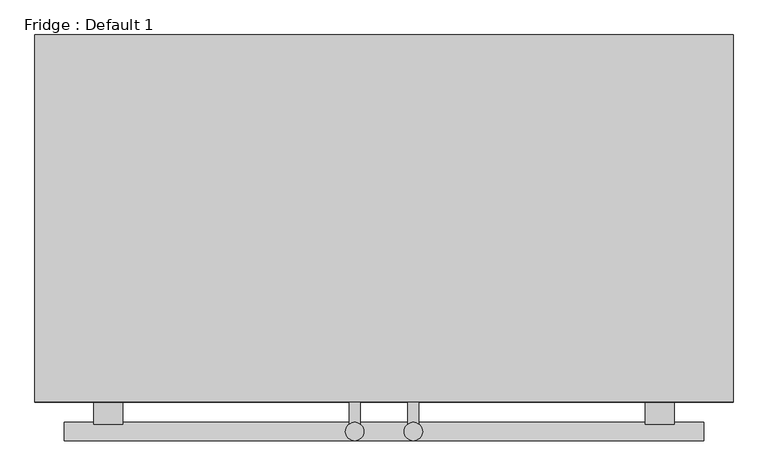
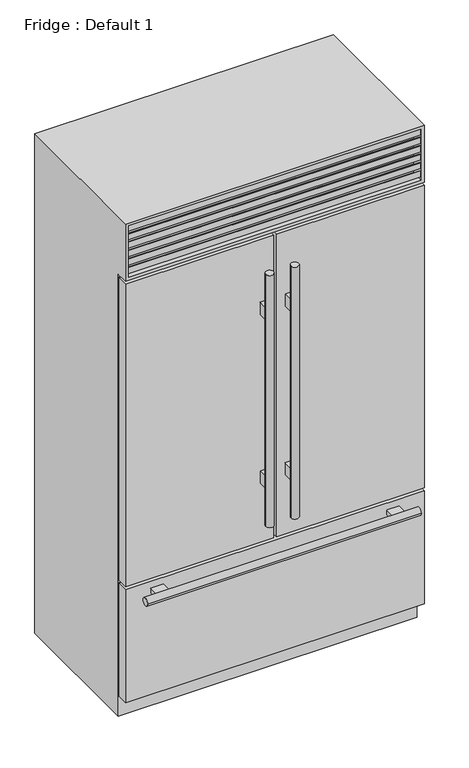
"""IFC4 building model written with IfcOpenShell, lengths in millimetres: proxy geometry, Fridge : Default 1."""

import ifcopenshell
import ifcopenshell.guid

model = None  # the IFC model being written
_history = None  # IfcOwnerHistory: only IFC2X3 demands one
_inside = {}  # id of a spatial element -> (the spatial element, [elements in it])
_under = {}  # id of a project, library or spatial element -> (it, [spatial elements below it])
_declared = {}  # id of a project -> (the project, [libraries it declares])
_typed = {}  # id of a type object -> (the type object, [elements of that type])
_made_of = {}  # id of a material, layer set ... -> (it, [elements and type objects made of it])


def new_model(schema):
    """Start an empty IFC model of exactly this schema.

    Asked for "IFC4X3", IfcOpenShell would pick the latest addendum, in which some entities
    have other attributes; the version numbers below select the first issue.
    IFC2X3 requires an IfcOwnerHistory on every rooted entity: one is made here for all.
    """
    global model, _history
    if schema == "IFC4X3":
        model = ifcopenshell.file(schema_version=(4, 3, 0, 0))
    else:
        model = ifcopenshell.file(schema=schema)
    _inside.clear()
    _under.clear()
    _declared.clear()
    _typed.clear()
    _made_of.clear()
    _history = None
    if model.schema == "IFC2X3":
        org = make("IfcOrganization", Name="unknown")
        user = make(
            "IfcPersonAndOrganization",
            ThePerson=make("IfcPerson", FamilyName="unknown"),
            TheOrganization=org,
        )
        app = make(
            "IfcApplication",
            ApplicationDeveloper=org,
            Version="unknown",
            ApplicationFullName="unknown",
            ApplicationIdentifier="unknown",
        )
        _history = make(
            "IfcOwnerHistory",
            OwningUser=user,
            OwningApplication=app,
            ChangeAction="ADDED",
            CreationDate=0,
        )
    return model


def make(cls, **values):
    """One entity of the class cls with the attributes given. An attribute that is None is left unset."""
    return model.create_entity(
        cls, **{name: value for name, value in values.items() if value is not None}
    )


def rooted(cls, **values):
    """An entity with a GlobalId (a new one), such as an element, a storey or a relation."""
    return make(cls, GlobalId=ifcopenshell.guid.new(), OwnerHistory=_history, **values)


def si_unit(unit_type, name, prefix=None):
    """IfcSIUnit, for example si_unit("LENGTHUNIT", "METRE", prefix="MILLI")."""
    return make("IfcSIUnit", UnitType=unit_type, Prefix=prefix, Name=name)


def assignment(units):
    """IfcUnitAssignment: the units of a project."""
    return None if units is None else make("IfcUnitAssignment", Units=units)


def point(xyz):
    """IfcCartesianPoint."""
    return None if xyz is None else make("IfcCartesianPoint", Coordinates=xyz)


def direction(xyz):
    """IfcDirection."""
    return None if xyz is None else make("IfcDirection", DirectionRatios=xyz)


def frame(location, z_axis=None, x_axis=None):
    """IfcAxis2Placement3D, a coordinate frame: its origin and axes. An axis left out is left unset."""
    return make(
        "IfcAxis2Placement3D",
        Location=point(location),
        Axis=direction(z_axis),
        RefDirection=direction(x_axis),
    )


def origin():
    """The frame at (0, 0, 0) with its axes left unset."""
    return frame((0.0, 0.0, 0.0))


def place(relative_to, where):
    """IfcLocalPlacement: puts the frame where relative to a parent placement (None: the world)."""
    return make(
        "IfcLocalPlacement", PlacementRelTo=relative_to, RelativePlacement=where
    )


def context(
    kind, dimensions, precision=None, world=None, true_north=None, identifier=None
):
    """IfcGeometricRepresentationContext, for example the 3D "Model" context."""
    return make(
        "IfcGeometricRepresentationContext",
        ContextIdentifier=identifier,
        ContextType=kind,
        CoordinateSpaceDimension=dimensions,
        Precision=precision,
        WorldCoordinateSystem=world,
        TrueNorth=true_north,
    )


def project(units=None, contexts=None):
    """IfcProject with its units and contexts."""
    return rooted(
        "IfcProject",
        Name="project",
        RepresentationContexts=contexts,
        UnitsInContext=assignment(units),
    )


def spatial(cls, under=None, at=None, **own):
    """A site, building, storey or space (cls), placed at a placement, below another one or the project."""
    s = rooted(cls, ObjectPlacement=at, **own)
    if under is not None:
        _under.setdefault(under.id(), (under, []))[1].append(s)
    return s


def polyline(points):
    """IfcPolyline through the points."""
    return make("IfcPolyline", Points=[point(p) for p in points])


def circle_curve(where, radius):
    """IfcCircle in the frame where."""
    return make("IfcCircle", Position=where, Radius=radius)


def ellipse_curve(where, semi_axis1, semi_axis2):
    """IfcEllipse in the frame where."""
    return make(
        "IfcEllipse", Position=where, SemiAxis1=semi_axis1, SemiAxis2=semi_axis2
    )


def outline(outer, holes=None, kind="AREA"):
    """IfcArbitraryClosedProfileDef: a profile drawn as a closed curve; with holes, ...WithVoids."""
    if holes is None:
        return make("IfcArbitraryClosedProfileDef", ProfileType=kind, OuterCurve=outer)
    return make(
        "IfcArbitraryProfileDefWithVoids",
        ProfileType=kind,
        OuterCurve=outer,
        InnerCurves=holes,
    )


def extrude(swept, where, along, depth):
    """IfcExtrudedAreaSolid: the profile swept, set in the frame where, extruded along a direction by depth."""
    return make(
        "IfcExtrudedAreaSolid",
        SweptArea=swept,
        Position=where,
        ExtrudedDirection=direction(along),
        Depth=depth,
    )


def faces_of(points, faces, orient=None, outer=None):
    """IfcFace entities. A face is a list of loops; a loop is a list of indices into points, from 0.

    orient and outer hold one flag for each loop. By default every Orientation is true, the
    first loop of a face is its IfcFaceOuterBound and the others are IfcFaceBound.
    """
    made = []
    for i, loops in enumerate(faces):
        bounds = []
        for j, loop in enumerate(loops):
            is_outer = j == 0 if outer is None else outer[i][j]
            bounds.append(
                make(
                    "IfcFaceOuterBound" if is_outer else "IfcFaceBound",
                    Bound=make("IfcPolyLoop", Polygon=[points[k] for k in loop]),
                    Orientation=True if orient is None else orient[i][j],
                )
            )
        made.append(make("IfcFace", Bounds=bounds))
    return made


def faceted_brep(points, faces, orient=None, outer=None, voids=None):
    """IfcFacetedBrep: a solid bounded by flat faces; with voids (closed shells), ...WithVoids."""
    shared = [point(p) for p in points]
    hull = make("IfcClosedShell", CfsFaces=faces_of(shared, faces, orient, outer))
    if voids is None:
        return make("IfcFacetedBrep", Outer=hull)
    return make(
        "IfcFacetedBrepWithVoids",
        Outer=hull,
        Voids=[
            make(cls, CfsFaces=faces_of(shared, fs, o, b)) for cls, fs, o, b in voids
        ],
    )


def shape(context_of_items, identifier, shape_type, items):
    """IfcShapeRepresentation: the items that make up one representation, for example the "Body"."""
    return make(
        "IfcShapeRepresentation",
        ContextOfItems=context_of_items,
        RepresentationIdentifier=identifier,
        RepresentationType=shape_type,
        Items=items,
    )


def source(mapping_origin, context_of_items, identifier, shape_type, items):
    """IfcRepresentationMap: a shape defined once, which mapped items show again and again."""
    return make(
        "IfcRepresentationMap",
        MappingOrigin=mapping_origin,
        MappedRepresentation=shape(context_of_items, identifier, shape_type, items),
    )


def transform(
    local_origin,
    x_axis=None,
    y_axis=None,
    z_axis=None,
    scale=None,
    scale2=None,
    scale3=None,
    uniform=True,
):
    """IfcCartesianTransformationOperator3D, or its non-uniform kind. x_axis, y_axis, z_axis: its Axis1, 2, 3."""
    if uniform:
        return make(
            "IfcCartesianTransformationOperator3D",
            Axis1=direction(x_axis),
            Axis2=direction(y_axis),
            LocalOrigin=point(local_origin),
            Scale=scale,
            Axis3=direction(z_axis),
        )
    return make(
        "IfcCartesianTransformationOperator3DnonUniform",
        Axis1=direction(x_axis),
        Axis2=direction(y_axis),
        LocalOrigin=point(local_origin),
        Scale=scale,
        Axis3=direction(z_axis),
        Scale2=scale2,
        Scale3=scale3,
    )


def mapped(mapping_source, mapping_target):
    """IfcMappedItem: shows the shape of a source again, moved by a transform."""
    return make(
        "IfcMappedItem", MappingSource=mapping_source, MappingTarget=mapping_target
    )


def made_of(thing, what):
    """Note that an element or type object is made of a material, layer set ...; save() writes the relation."""
    if what is not None:
        _made_of.setdefault(what.id(), (what, []))[1].append(thing)
    return thing


def element(
    cls,
    number,
    at=None,
    inside=None,
    cuts=None,
    type_object=None,
    material=None,
    context=None,
    identifier="Body",
    shape_type=None,
    held_by="IfcProductDefinitionShape",
    body=None,
    shapes=None,
    **own,
):
    """One element of the class cls, such as IfcWall. Its Tag is "e" and its number.

    at: its placement. inside: the storey or other place that contains it. cuts: it is an
    opening in that element (IfcRelVoidsElement). A single representation is given by context,
    identifier, shape_type and body (its items); several are given by shapes. held_by: the class
    of the entity that holds the representations. save() writes the other relations.
    """
    e = rooted(cls, Tag="e%d" % number, ObjectPlacement=at, **own)
    if body is not None:
        shapes = [shape(context, identifier, shape_type, body)]
    if shapes is not None:
        e.Representation = make(held_by, Representations=shapes)
    if inside is not None:
        _inside.setdefault(inside.id(), (inside, []))[1].append(e)
    if cuts is not None:
        rooted(
            "IfcRelVoidsElement", RelatingBuildingElement=cuts, RelatedOpeningElement=e
        )
    if type_object is not None:
        _typed.setdefault(type_object.id(), (type_object, []))[1].append(e)
    return made_of(e, material)


def aggregate(whole, parts):
    """IfcRelAggregates: a whole, such as a stair, and the parts it consists of."""
    return rooted("IfcRelAggregates", RelatingObject=whole, RelatedObjects=parts)


def save(model, path):
    """Write the relations noted so far, then the file.

    IfcRelAggregates (storeys below a building ...), IfcRelContainedInSpatialStructure (elements
    in a storey), IfcRelDefinesByType, IfcRelAssociatesMaterial and IfcRelDeclares: one each for
    every whole, place, type object, material and project.
    """
    for whole, parts in _under.values():
        aggregate(whole, parts)
    for where, things in _inside.values():
        rooted(
            "IfcRelContainedInSpatialStructure",
            RelatedElements=things,
            RelatingStructure=where,
        )
    for kind, things in _typed.values():
        rooted("IfcRelDefinesByType", RelatedObjects=things, RelatingType=kind)
    for what, things in _made_of.values():
        rooted("IfcRelAssociatesMaterial", RelatedObjects=things, RelatingMaterial=what)
    for by, libraries in _declared.values():
        rooted("IfcRelDeclares", RelatingContext=by, RelatedDefinitions=libraries)
    model.write(path)


def plane_surface(at):
    """IfcPlane: the flat surface through the origin of the frame at, square to its z axis."""
    return make("IfcPlane", Position=at)


def cylinder_surface(at, radius):
    """IfcCylindricalSurface: all points at the distance radius from the z axis of the frame at."""
    return make("IfcCylindricalSurface", Position=at, Radius=radius)


def advanced_brep(points, edges, surfaces, faces):
    """IfcAdvancedBrep: a solid bounded by faces that lie on surfaces and meet in shared edges.

    An edge is (start, end): straight between two places in points (the first is 0);
    or (start, end, curve); or (start, end, curve, False) where it runs against its curve.
    A face is (place in surfaces, loops), or (place, loops, False) where it looks against
    its surface's normal. A loop lists edges by number (the first is 1), with a minus sign
    where the edge is run from its end to its start. The first loop is the outer one.
    """
    corners = [point(p) for p in points]
    vertices = [make("IfcVertexPoint", VertexGeometry=c) for c in corners]
    made = []
    for start, end, *more in edges:
        made.append(
            make(
                "IfcEdgeCurve",
                EdgeStart=vertices[start],
                EdgeEnd=vertices[end],
                EdgeGeometry=more[0] if more else make("IfcPolyline", Points=[corners[start], corners[end]]),
                SameSense=more[1] if len(more) > 1 else True,
            )
        )
    hull = []
    for where, loops, *sense in faces:
        bounds = []
        for j, loop in enumerate(loops):
            ring = [make("IfcOrientedEdge", EdgeElement=made[abs(k) - 1], Orientation=k > 0) for k in loop]
            bounds.append(
                make(
                    "IfcFaceOuterBound" if j == 0 else "IfcFaceBound",
                    Bound=make("IfcEdgeLoop", EdgeList=ring),
                    Orientation=True,
                )
            )
        hull.append(make("IfcAdvancedFace", Bounds=bounds, FaceSurface=surfaces[where], SameSense=sense[0] if sense else True))
    return make("IfcAdvancedBrep", Outer=make("IfcClosedShell", CfsFaces=hull))


def fridge_default_1_250fe022(model_context):
    return source(origin(), model_context, "Body", "SolidModel", [
        extrude(outline(polyline([(-603.97005, -690.55), (-6.35, -690.55), (-6.35, -735.0), (-603.97005, -735.0), (-603.97005, -690.55)])), frame((0.0, 0.0, 584.2), z_axis=(0.0, 0.0, 1.0), x_axis=(1.0, 0.0, 0.0)), (0.0, 0.0, 1.0), 1292.225),
        extrude(outline(polyline([(6.35, -690.55), (603.97005, -690.55), (603.97005, -735.0), (6.35, -735.0), (6.35, -690.55)])), frame((0.0, 0.0, 584.2), z_axis=(0.0, 0.0, 1.0), x_axis=(1.0, 0.0, 0.0)), (0.0, 0.0, 1.0), 1292.225),
        extrude(outline(polyline([(-603.97005, -690.55), (603.97005, -690.55), (603.97005, -735.0), (-603.97005, -735.0), (-603.97005, -690.55)])), frame((0.0, 0.0, 88.9), z_axis=(0.0, 0.0, 1.0), x_axis=(1.0, 0.0, 0.0)), (0.0, 0.0, 1.0), 482.6),
        faceted_brep([(603.97005, -735.0, 2133.6), (-603.97005, -735.0, 2133.6), (-603.97005, -735.0, 1889.125), (603.97005, -735.0, 1889.125), (591.27005, -735.0, 2120.9), (591.27005, -735.0, 1901.825), (-591.27005, -735.0, 1901.825), (-591.27005, -735.0, 2120.9), (603.97005, -100.0, 2133.6), (-603.97005, -100.0, 2133.6), (-603.97005, -100.0, 0.0), (-603.97005, -684.2, 0.0), (-603.97005, -684.2, 1889.125), (603.97005, -684.2, 1889.125), (603.97005, -684.2, 0.0), (603.97005, -100.0, 0.0), (-591.27005, -684.2, 2120.9), (591.27005, -684.2, 2120.9), (-591.27005, -684.2, 1901.825), (591.27005, -684.2, 1901.825)], [[[0, 1, 2, 3], [4, 5, 6, 7]], [[1, 0, 8, 9]], [[2, 1, 9, 10, 11, 12]], [[3, 2, 12, 13]], [[8, 0, 3, 13, 14, 15]], [[4, 7, 16, 17]], [[7, 6, 18, 16]], [[6, 5, 19, 18]], [[5, 4, 17, 19]], [[15, 14, 11, 10]], [[9, 8, 15, 10]], [[17, 16, 18, 19]], [[11, 14, 13, 12]]]),
        extrude(outline(polyline([(-684.2, 1901.825), (-731.825, 1914.5860803), (-731.825, 1939.9860803), (-728.65, 1939.9860803), (-728.65, 1917.1368938), (-684.2, 1905.2265522), (-684.2, 1901.825)])), frame((-591.27005, 0.0, 0.0), z_axis=(1.0, 0.0, 0.0), x_axis=(0.0, 1.0, 0.0)), (0.0, 0.0, 1.0), 1182.5401),
        extrude(outline(polyline([(-684.2, 1938.0077839), (-731.825, 1950.7688642), (-731.825, 1976.1688642), (-728.65, 1976.1688642), (-728.65, 1953.3196777), (-684.2, 1941.4093361), (-684.2, 1938.0077839)])), frame((-591.27005, 0.0, 0.0), z_axis=(1.0, 0.0, 0.0), x_axis=(0.0, 1.0, 0.0)), (0.0, 0.0, 1.0), 1182.5401),
        extrude(outline(polyline([(-684.2, 1974.1905679), (-731.825, 1986.9516482), (-731.825, 2012.3516482), (-728.65, 2012.3516482), (-728.65, 1989.5024616), (-684.2, 1977.59212), (-684.2, 1974.1905679)])), frame((-591.27005, 0.0, 0.0), z_axis=(1.0, 0.0, 0.0), x_axis=(0.0, 1.0, 0.0)), (0.0, 0.0, 1.0), 1182.5401),
        extrude(outline(polyline([(-684.2, 2010.3733518), (-731.825, 2023.1344321), (-731.825, 2048.5344321), (-728.65, 2048.5344321), (-728.65, 2025.6852456), (-684.2, 2013.774904), (-684.2, 2010.3733518)])), frame((-591.27005, 0.0, 0.0), z_axis=(1.0, 0.0, 0.0), x_axis=(0.0, 1.0, 0.0)), (0.0, 0.0, 1.0), 1182.5401),
        extrude(outline(polyline([(-684.2, 2046.5561358), (-731.825, 2059.3172161), (-731.825, 2084.7172161), (-728.65, 2084.7172161), (-728.65, 2061.8680295), (-684.2, 2049.9576879), (-684.2, 2046.5561358)])), frame((-591.27005, 0.0, 0.0), z_axis=(1.0, 0.0, 0.0), x_axis=(0.0, 1.0, 0.0)), (0.0, 0.0, 1.0), 1182.5401),
        extrude(outline(polyline([(-684.2, 2082.7389197), (-731.825, 2095.5), (-731.825, 2120.9), (-728.65, 2120.9), (-728.65, 2098.0508135), (-684.2, 2086.1404719), (-684.2, 2082.7389197)])), frame((-591.27005, 0.0, 0.0), z_axis=(1.0, 0.0, 0.0), x_axis=(0.0, 1.0, 0.0)), (0.0, 0.0, 1.0), 1182.5401),
        advanced_brep(
        [(-597.62005, -684.2, 565.15), (-597.62005, -690.55, 565.15), (-597.62005, -690.55, 95.25), (-597.62005, -684.2, 95.25), (-600.79505, -690.55, 568.325), (-600.79505, -684.2, 568.325), (-600.79505, -684.2, 92.075), (-600.79505, -690.55, 92.075), (597.62005, -690.55, 95.25), (597.62005, -684.2, 95.25), (600.79505, -684.2, 92.075), (600.79505, -690.55, 92.075), (597.62005, -690.55, 565.15), (597.62005, -684.2, 565.15), (600.79505, -684.2, 568.325), (600.79505, -690.55, 568.325)],
        [
            (0, 1),
            (1, 2),
            (2, 3),
            (3, 0),
            (4, 5, ellipse_curve(frame((-600.79505, -687.375, 568.325), z_axis=(-0.7071067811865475, 0.0, -0.7071067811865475), x_axis=(-0.7071067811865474, 0.0, 0.7071067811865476)), 4.4901281, 3.175)),
            (5, 6),
            (6, 7, ellipse_curve(frame((-600.79505, -687.375, 92.075), z_axis=(-0.7071067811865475, 0.0, 0.7071067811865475), x_axis=(0.7071067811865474, 0.0, 0.7071067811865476)), 4.4901281, 3.175)),
            (7, 4),
            (2, 8),
            (8, 9),
            (9, 3),
            (6, 10),
            (10, 11, ellipse_curve(frame((600.79505, -687.375, 92.075), z_axis=(-0.7071067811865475, 0.0, -0.7071067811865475), x_axis=(-0.7071067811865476, 0.0, 0.7071067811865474)), 4.4901281, 3.175)),
            (11, 7),
            (8, 12),
            (12, 13),
            (13, 9),
            (10, 14),
            (14, 15, ellipse_curve(frame((600.79505, -687.375, 568.325), z_axis=(0.7071067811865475, 0.0, -0.7071067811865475), x_axis=(-0.7071067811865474, 0.0, -0.7071067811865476)), 4.4901281, 3.175)),
            (15, 11),
            (12, 1),
            (0, 13),
            (5, 14),
            (4, 15),
        ],
        [
            plane_surface(frame((-597.62005, -690.55, 565.15), z_axis=(1.0, 0.0, 0.0), x_axis=(0.0, 0.0, -1.0))),
            cylinder_surface(frame((-600.79505, -687.375, 571.5), z_axis=(0.0, 0.0, 1.0), x_axis=(0.0, -1.0, 0.0)), 3.175),
            plane_surface(frame((-597.62005, -690.55, 95.25), z_axis=(0.0, 0.0, 1.0), x_axis=(1.0, 0.0, 0.0))),
            cylinder_surface(frame((-603.97005, -687.375, 92.075), z_axis=(-1.0, 0.0, 0.0), x_axis=(0.0, -1.0, 0.0)), 3.175),
            plane_surface(frame((597.62005, -690.55, 95.25), z_axis=(-1.0, 0.0, 0.0), x_axis=(0.0, 0.0, 1.0))),
            cylinder_surface(frame((600.79505, -687.375, 88.9), z_axis=(0.0, 0.0, -1.0), x_axis=(0.0, -1.0, 0.0)), 3.175),
            plane_surface(frame((597.62005, -690.55, 565.15), z_axis=(0.0, 0.0, -1.0), x_axis=(-1.0, 0.0, 0.0))),
            plane_surface(frame((597.62005, -684.2, 565.15), z_axis=(0.0, 1.0, 0.0), x_axis=(-1.0, 0.0, 0.0))),
            cylinder_surface(frame((603.97005, -687.375, 568.325), z_axis=(1.0, 0.0, 0.0), x_axis=(0.0, -1.0, 0.0)), 3.175),
            plane_surface(frame((600.79505, -690.55, 568.325), z_axis=(0.0, -1.0, 0.0), x_axis=(-1.0, 0.0, 0.0))),
        ],
        [
            (0, [[1, 2, 3, 4]]),
            (1, [[5, 6, 7, 8]]),
            (2, [[-3, 9, 10, 11]]),
            (3, [[-7, 12, 13, 14]]),
            (4, [[-10, 15, 16, 17]]),
            (5, [[-13, 18, 19, 20]]),
            (6, [[-16, 21, -1, 22]]),
            (7, [[23, -18, -12, -6], [-11, -17, -22, -4]]),
            (8, [[-19, -23, -5, 24]]),
            (9, [[-14, -20, -24, -8], [-21, -15, -9, -2]]),
        ],
    ),
        advanced_brep(
        [(12.7, -684.2, 1870.075), (12.7, -690.55, 1870.075), (12.7, -690.55, 590.55), (12.7, -684.2, 590.55), (9.525, -690.55, 1873.25), (9.525, -684.2, 1873.25), (9.525, -684.2, 587.375), (9.525, -690.55, 587.375), (597.62005, -690.55, 590.55), (597.62005, -684.2, 590.55), (600.79505, -684.2, 587.375), (600.79505, -690.55, 587.375), (597.62005, -690.55, 1870.075), (597.62005, -684.2, 1870.075), (600.79505, -684.2, 1873.25), (600.79505, -690.55, 1873.25)],
        [
            (0, 1),
            (1, 2),
            (2, 3),
            (3, 0),
            (4, 5, ellipse_curve(frame((9.525, -687.375, 1873.25), z_axis=(-0.7071067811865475, 0.0, -0.7071067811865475), x_axis=(-0.7071067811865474, 0.0, 0.7071067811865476)), 4.4901281, 3.175)),
            (5, 6),
            (6, 7, ellipse_curve(frame((9.525, -687.375, 587.375), z_axis=(-0.7071067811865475, 0.0, 0.7071067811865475), x_axis=(0.7071067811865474, 0.0, 0.7071067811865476)), 4.4901281, 3.175)),
            (7, 4),
            (2, 8),
            (8, 9),
            (9, 3),
            (6, 10),
            (10, 11, ellipse_curve(frame((600.79505, -687.375, 587.375), z_axis=(-0.7071067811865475, 0.0, -0.7071067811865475), x_axis=(-0.7071067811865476, 0.0, 0.7071067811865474)), 4.4901281, 3.175)),
            (11, 7),
            (8, 12),
            (12, 13),
            (13, 9),
            (10, 14),
            (14, 15, ellipse_curve(frame((600.79505, -687.375, 1873.25), z_axis=(0.7071067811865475, 0.0, -0.7071067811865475), x_axis=(-0.7071067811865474, 0.0, -0.7071067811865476)), 4.4901281, 3.175)),
            (15, 11),
            (12, 1),
            (0, 13),
            (5, 14),
            (4, 15),
        ],
        [
            plane_surface(frame((12.7, -690.55, 1870.075), z_axis=(1.0, 0.0, 0.0), x_axis=(0.0, 0.0, -1.0))),
            cylinder_surface(frame((9.525, -687.375, 1876.425), z_axis=(0.0, 0.0, 1.0), x_axis=(0.0, -1.0, 0.0)), 3.175),
            plane_surface(frame((12.7, -690.55, 590.55), z_axis=(0.0, 0.0, 1.0), x_axis=(1.0, 0.0, 0.0))),
            cylinder_surface(frame((6.35, -687.375, 587.375), z_axis=(-1.0, 0.0, 0.0), x_axis=(0.0, -1.0, 0.0)), 3.175),
            plane_surface(frame((597.62005, -690.55, 590.55), z_axis=(-1.0, 0.0, 0.0), x_axis=(0.0, 0.0, 1.0))),
            cylinder_surface(frame((600.79505, -687.375, 584.2), z_axis=(0.0, 0.0, -1.0), x_axis=(0.0, -1.0, 0.0)), 3.175),
            plane_surface(frame((597.62005, -690.55, 1870.075), z_axis=(0.0, 0.0, -1.0), x_axis=(-1.0, 0.0, 0.0))),
            plane_surface(frame((597.62005, -684.2, 1870.075), z_axis=(0.0, 1.0, 0.0), x_axis=(-1.0, 0.0, 0.0))),
            cylinder_surface(frame((603.97005, -687.375, 1873.25), z_axis=(1.0, 0.0, 0.0), x_axis=(0.0, -1.0, 0.0)), 3.175),
            plane_surface(frame((600.79505, -690.55, 1873.25), z_axis=(0.0, -1.0, 0.0), x_axis=(-1.0, 0.0, 0.0))),
        ],
        [
            (0, [[1, 2, 3, 4]]),
            (1, [[5, 6, 7, 8]]),
            (2, [[-3, 9, 10, 11]]),
            (3, [[-7, 12, 13, 14]]),
            (4, [[-10, 15, 16, 17]]),
            (5, [[-13, 18, 19, 20]]),
            (6, [[-16, 21, -1, 22]]),
            (7, [[23, -18, -12, -6], [-11, -17, -22, -4]]),
            (8, [[-19, -23, -5, 24]]),
            (9, [[-14, -20, -24, -8], [-21, -15, -9, -2]]),
        ],
    ),
        advanced_brep(
        [(-597.62005, -684.2, 1870.075), (-597.62005, -690.55, 1870.075), (-597.62005, -690.55, 590.55), (-597.62005, -684.2, 590.55), (-600.79505, -690.55, 1873.25), (-600.79505, -684.2, 1873.25), (-600.79505, -684.2, 587.375), (-600.79505, -690.55, 587.375), (-12.7, -690.55, 590.55), (-12.7, -684.2, 590.55), (-9.525, -684.2, 587.375), (-9.525, -690.55, 587.375), (-12.7, -690.55, 1870.075), (-12.7, -684.2, 1870.075), (-9.525, -684.2, 1873.25), (-9.525, -690.55, 1873.25)],
        [
            (0, 1),
            (1, 2),
            (2, 3),
            (3, 0),
            (4, 5, ellipse_curve(frame((-600.79505, -687.375, 1873.25), z_axis=(-0.7071067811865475, 0.0, -0.7071067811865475), x_axis=(-0.7071067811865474, 0.0, 0.7071067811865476)), 4.4901281, 3.175)),
            (5, 6),
            (6, 7, ellipse_curve(frame((-600.79505, -687.375, 587.375), z_axis=(-0.7071067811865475, 0.0, 0.7071067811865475), x_axis=(0.7071067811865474, 0.0, 0.7071067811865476)), 4.4901281, 3.175)),
            (7, 4),
            (2, 8),
            (8, 9),
            (9, 3),
            (6, 10),
            (10, 11, ellipse_curve(frame((-9.525, -687.375, 587.375), z_axis=(-0.7071067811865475, 0.0, -0.7071067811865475), x_axis=(-0.7071067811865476, 0.0, 0.7071067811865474)), 4.4901281, 3.175)),
            (11, 7),
            (8, 12),
            (12, 13),
            (13, 9),
            (10, 14),
            (14, 15, ellipse_curve(frame((-9.525, -687.375, 1873.25), z_axis=(0.7071067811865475, 0.0, -0.7071067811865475), x_axis=(-0.7071067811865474, 0.0, -0.7071067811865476)), 4.4901281, 3.175)),
            (15, 11),
            (12, 1),
            (0, 13),
            (5, 14),
            (4, 15),
        ],
        [
            plane_surface(frame((-597.62005, -690.55, 1870.075), z_axis=(1.0, 0.0, 0.0), x_axis=(0.0, 0.0, -1.0))),
            cylinder_surface(frame((-600.79505, -687.375, 1876.425), z_axis=(0.0, 0.0, 1.0), x_axis=(0.0, -1.0, 0.0)), 3.175),
            plane_surface(frame((-597.62005, -690.55, 590.55), z_axis=(0.0, 0.0, 1.0), x_axis=(1.0, 0.0, 0.0))),
            cylinder_surface(frame((-603.97005, -687.375, 587.375), z_axis=(-1.0, 0.0, 0.0), x_axis=(0.0, -1.0, 0.0)), 3.175),
            plane_surface(frame((-12.7, -690.55, 590.55), z_axis=(-1.0, 0.0, 0.0), x_axis=(0.0, 0.0, 1.0))),
            cylinder_surface(frame((-9.525, -687.375, 584.2), z_axis=(0.0, 0.0, -1.0), x_axis=(0.0, -1.0, 0.0)), 3.175),
            plane_surface(frame((-12.7, -690.55, 1870.075), z_axis=(0.0, 0.0, -1.0), x_axis=(-1.0, 0.0, 0.0))),
            plane_surface(frame((-12.7, -684.2, 1870.075), z_axis=(0.0, 1.0, 0.0), x_axis=(-1.0, 0.0, 0.0))),
            cylinder_surface(frame((-6.35, -687.375, 1873.25), z_axis=(1.0, 0.0, 0.0), x_axis=(0.0, -1.0, 0.0)), 3.175),
            plane_surface(frame((-9.525, -690.55, 1873.25), z_axis=(0.0, -1.0, 0.0), x_axis=(-1.0, 0.0, 0.0))),
        ],
        [
            (0, [[1, 2, 3, 4]]),
            (1, [[5, 6, 7, 8]]),
            (2, [[-3, 9, 10, 11]]),
            (3, [[-7, 12, 13, 14]]),
            (4, [[-10, 15, 16, 17]]),
            (5, [[-13, 18, 19, 20]]),
            (6, [[-16, 21, -1, 22]]),
            (7, [[23, -18, -12, -6], [-11, -17, -22, -4]]),
            (8, [[-19, -23, -5, 24]]),
            (9, [[-14, -20, -24, -8], [-21, -15, -9, -2]]),
        ],
    ),
        advanced_brep(
        [(-451.57005, -735.0, 542.925), (-451.57005, -735.0, 523.875), (-502.37005, -735.0, 523.875), (-502.37005, -735.0, 542.925), (451.57005, -735.0, 542.925), (502.37005, -735.0, 542.925), (502.37005, -735.0, 523.875), (451.57005, -735.0, 523.875), (-451.57005, -773.4741958, 542.925), (-451.57005, -770.2991958, 533.4), (-451.57005, -773.4741958, 523.875), (-502.37005, -773.4741958, 523.875), (-502.37005, -770.2991958, 533.4), (-502.37005, -773.4741958, 542.925), (451.57005, -773.4741958, 542.925), (502.37005, -773.4741958, 542.925), (502.37005, -770.2991958, 533.4), (502.37005, -773.4741958, 523.875), (451.57005, -773.4741958, 523.875), (451.57005, -770.2991958, 533.4), (553.17005, -802.0491958, 533.4), (553.17005, -770.2991958, 533.4), (-553.17005, -802.0491958, 533.4), (-553.17005, -770.2991958, 533.4)],
        [
            (0, 1),
            (1, 2),
            (2, 3),
            (3, 0),
            (4, 5),
            (5, 6),
            (6, 7),
            (7, 4),
            (0, 8),
            (8, 9, circle_curve(frame((-451.57005, -786.1741958, 533.4), z_axis=(-1.0, 0.0, 0.0), x_axis=(0.0, 1.0, 0.0)), 15.875)),
            (9, 10, circle_curve(frame((-451.57005, -786.1741958, 533.4), z_axis=(-1.0, 0.0, 0.0), x_axis=(0.0, 1.0, 0.0)), 15.875)),
            (10, 1),
            (10, 11),
            (11, 2),
            (11, 12, circle_curve(frame((-502.37005, -786.1741958, 533.4), z_axis=(1.0, 0.0, 0.0), x_axis=(0.0, 1.0, 0.0)), 15.875)),
            (12, 13, circle_curve(frame((-502.37005, -786.1741958, 533.4), z_axis=(1.0, 0.0, 0.0), x_axis=(0.0, 1.0, 0.0)), 15.875)),
            (13, 3),
            (13, 8),
            (4, 14),
            (14, 15),
            (15, 5),
            (15, 16, circle_curve(frame((502.37005, -786.1741958, 533.4), z_axis=(-1.0, 0.0, 0.0), x_axis=(0.0, 1.0, 0.0)), 15.875)),
            (16, 17, circle_curve(frame((502.37005, -786.1741958, 533.4), z_axis=(-1.0, 0.0, 0.0), x_axis=(0.0, 1.0, 0.0)), 15.875)),
            (17, 6),
            (17, 18),
            (18, 7),
            (18, 19, circle_curve(frame((451.57005, -786.1741958, 533.4), z_axis=(1.0, 0.0, 0.0), x_axis=(0.0, 1.0, 0.0)), 15.875)),
            (19, 14, circle_curve(frame((451.57005, -786.1741958, 533.4), z_axis=(1.0, 0.0, 0.0), x_axis=(0.0, 1.0, 0.0)), 15.875)),
            (20, 21, circle_curve(frame((553.17005, -786.1741958, 533.4), z_axis=(1.0, 0.0, 0.0), x_axis=(0.0, 1.0, 0.0)), 15.875)),
            (21, 20, circle_curve(frame((553.17005, -786.1741958, 533.4), z_axis=(1.0, 0.0, 0.0), x_axis=(0.0, 1.0, 0.0)), 15.875)),
            (22, 23, circle_curve(frame((-553.17005, -786.1741958, 533.4), z_axis=(-1.0, 0.0, 0.0), x_axis=(0.0, 1.0, 0.0)), 15.875)),
            (23, 22, circle_curve(frame((-553.17005, -786.1741958, 533.4), z_axis=(-1.0, 0.0, 0.0), x_axis=(0.0, 1.0, 0.0)), 15.875)),
            (20, 22),
            (23, 12),
            (9, 19),
            (16, 21),
        ],
        [
            plane_surface(frame((-451.57005, -735.0, 542.925), z_axis=(0.0, 1.0, 0.0), x_axis=(0.0, 0.0, -1.0))),
            plane_surface(frame((-451.57005, -735.0, 542.925), z_axis=(1.0, 0.0, 0.0), x_axis=(0.0, -1.0, 0.0))),
            plane_surface(frame((-451.57005, -735.0, 523.875), z_axis=(0.0, 0.0, -1.0), x_axis=(0.0, -1.0, 0.0))),
            plane_surface(frame((-502.37005, -735.0, 523.875), z_axis=(-1.0, 0.0, 0.0), x_axis=(0.0, -1.0, 0.0))),
            plane_surface(frame((-502.37005, -735.0, 542.925), z_axis=(0.0, 0.0, 1.0), x_axis=(0.0, -1.0, 0.0))),
            plane_surface(frame((451.57005, -735.0, 542.925), z_axis=(0.0, 0.0, 1.0), x_axis=(0.0, -1.0, 0.0))),
            plane_surface(frame((502.37005, -735.0, 542.925), z_axis=(1.0, 0.0, 0.0), x_axis=(0.0, -1.0, 0.0))),
            plane_surface(frame((502.37005, -735.0, 523.875), z_axis=(0.0, 0.0, -1.0), x_axis=(0.0, -1.0, 0.0))),
            plane_surface(frame((451.57005, -735.0, 523.875), z_axis=(-1.0, 0.0, 0.0), x_axis=(0.0, -1.0, 0.0))),
            plane_surface(frame((553.17005, -770.2991958, 533.4), z_axis=(1.0, 0.0, 0.0), x_axis=(0.0, 0.0, 1.0))),
            plane_surface(frame((-553.17005, -770.2991958, 533.4), z_axis=(-1.0, 0.0, 0.0), x_axis=(0.0, 0.0, -1.0))),
            cylinder_surface(frame((-553.17005, -786.1741958, 533.4), z_axis=(1.0, 0.0, 0.0), x_axis=(0.0, 1.0, 0.0)), 15.875),
        ],
        [
            (0, [[1, 2, 3, 4]]),
            (0, [[5, 6, 7, 8]]),
            (1, [[-1, 9, 10, 11, 12]]),
            (2, [[-2, -12, 13, 14]]),
            (3, [[-3, -14, 15, 16, 17]]),
            (4, [[-4, -17, 18, -9]]),
            (5, [[-5, 19, 20, 21]]),
            (6, [[-6, -21, 22, 23, 24]]),
            (7, [[-7, -24, 25, 26]]),
            (8, [[-8, -26, 27, 28, -19]]),
            (9, [[29, 30]]),
            (10, [[31, 32]]),
            (11, [[-29, 33, -32, 34, -15, -13, -11, 35, -27, -25, -23, 36]]),
            (11, [[-30, -36, -22, -20, -28, -35, -10, -18, -16, -34, -31, -33]]),
        ],
    ),
        advanced_brep(
        [(34.925, -786.1741958, 1762.125), (66.675, -786.1741958, 1762.125), (34.925, -786.1741958, 685.8), (66.675, -786.1741958, 685.8), (60.325, -773.4741958, 1558.925), (60.325, -773.4741958, 1609.725), (41.275, -773.4741958, 1609.725), (41.275, -773.4741958, 1558.925), (60.325, -773.4741958, 838.2), (60.325, -773.4741958, 889.0), (41.275, -773.4741958, 889.0), (41.275, -773.4741958, 838.2), (60.325, -735.0, 1609.725), (60.325, -735.0, 1558.925), (41.275, -735.0, 1558.925), (41.275, -735.0, 1609.725), (60.325, -735.0, 889.0), (60.325, -735.0, 838.2), (41.275, -735.0, 838.2), (41.275, -735.0, 889.0)],
        [
            (0, 1, circle_curve(frame((50.8, -786.1741958, 1762.125), z_axis=(0.0, 0.0, 1.0), x_axis=(1.0, 0.0, 0.0)), 15.875)),
            (1, 0, circle_curve(frame((50.8, -786.1741958, 1762.125), z_axis=(0.0, 0.0, 1.0), x_axis=(1.0, 0.0, 0.0)), 15.875)),
            (2, 3, circle_curve(frame((50.8, -786.1741958, 685.8), z_axis=(0.0, 0.0, -1.0), x_axis=(1.0, 0.0, 0.0)), 15.875)),
            (3, 2, circle_curve(frame((50.8, -786.1741958, 685.8), z_axis=(0.0, 0.0, -1.0), x_axis=(1.0, 0.0, 0.0)), 15.875)),
            (0, 2),
            (3, 1),
            (4, 5),
            (5, 6, circle_curve(frame((50.8, -786.1741958, 1609.725), z_axis=(0.0, 0.0, 1.0), x_axis=(1.0, 0.0, 0.0)), 15.875)),
            (6, 7),
            (7, 4, circle_curve(frame((50.8, -786.1741958, 1558.925), z_axis=(0.0, 0.0, -1.0), x_axis=(1.0, 0.0, 0.0)), 15.875)),
            (8, 9),
            (9, 10, circle_curve(frame((50.8, -786.1741958, 889.0), z_axis=(0.0, 0.0, 1.0), x_axis=(1.0, 0.0, 0.0)), 15.875)),
            (10, 11),
            (11, 8, circle_curve(frame((50.8, -786.1741958, 838.2), z_axis=(0.0, 0.0, -1.0), x_axis=(1.0, 0.0, 0.0)), 15.875)),
            (12, 13),
            (13, 14),
            (14, 15),
            (15, 12),
            (16, 17),
            (17, 18),
            (18, 19),
            (19, 16),
            (12, 5),
            (4, 13),
            (7, 14),
            (6, 15),
            (16, 9),
            (8, 17),
            (11, 18),
            (10, 19),
        ],
        [
            plane_surface(frame((66.675, -786.1741958, 1762.125), z_axis=(0.0, 0.0, 1.0), x_axis=(0.0, 1.0, 0.0))),
            plane_surface(frame((66.675, -786.1741958, 685.8), z_axis=(0.0, 0.0, -1.0), x_axis=(0.0, -1.0, 0.0))),
            cylinder_surface(frame((50.8, -786.1741958, 685.8), z_axis=(0.0, 0.0, 1.0), x_axis=(1.0, 0.0, 0.0)), 15.875),
            plane_surface(frame((60.325, -735.0, 1609.725), z_axis=(0.0, 1.0, 0.0), x_axis=(0.0, 0.0, -1.0))),
            plane_surface(frame((60.325, -735.0, 1609.725), z_axis=(1.0, 0.0, 0.0), x_axis=(0.0, -1.0, 0.0))),
            plane_surface(frame((60.325, -735.0, 1558.925), z_axis=(0.0, 0.0, -1.0), x_axis=(0.0, -1.0, 0.0))),
            plane_surface(frame((41.275, -735.0, 1558.925), z_axis=(-1.0, 0.0, 0.0), x_axis=(0.0, -1.0, 0.0))),
            plane_surface(frame((41.275, -735.0, 1609.725), z_axis=(0.0, 0.0, 1.0), x_axis=(0.0, -1.0, 0.0))),
            plane_surface(frame((60.325, -735.0, 889.0), z_axis=(1.0, 0.0, 0.0), x_axis=(0.0, -1.0, 0.0))),
            plane_surface(frame((60.325, -735.0, 838.2), z_axis=(0.0, 0.0, -1.0), x_axis=(0.0, -1.0, 0.0))),
            plane_surface(frame((41.275, -735.0, 838.2), z_axis=(-1.0, 0.0, 0.0), x_axis=(0.0, -1.0, 0.0))),
            plane_surface(frame((41.275, -735.0, 889.0), z_axis=(0.0, 0.0, 1.0), x_axis=(0.0, -1.0, 0.0))),
        ],
        [
            (0, [[1, 2]]),
            (1, [[3, 4]]),
            (2, [[-1, 5, -4, 6]]),
            (2, [[-2, -6, -3, -5], [7, 8, 9, 10], [11, 12, 13, 14]]),
            (3, [[15, 16, 17, 18]]),
            (3, [[19, 20, 21, 22]]),
            (4, [[-15, 23, -7, 24]]),
            (5, [[-16, -24, -10, 25]]),
            (6, [[-17, -25, -9, 26]]),
            (7, [[-18, -26, -8, -23]]),
            (8, [[-19, 27, -11, 28]]),
            (9, [[-20, -28, -14, 29]]),
            (10, [[-21, -29, -13, 30]]),
            (11, [[-22, -30, -12, -27]]),
        ],
    ),
        advanced_brep(
        [(-41.275, -735.0, 1609.725), (-41.275, -735.0, 1558.925), (-60.325, -735.0, 1558.925), (-60.325, -735.0, 1609.725), (-41.275, -735.0, 889.0), (-41.275, -735.0, 838.2), (-60.325, -735.0, 838.2), (-60.325, -735.0, 889.0), (-41.275, -773.4741958, 1609.725), (-41.275, -773.4741958, 1558.925), (-60.325, -773.4741958, 1558.925), (-60.325, -773.4741958, 1609.725), (-41.275, -773.4741958, 889.0), (-41.275, -773.4741958, 838.2), (-60.325, -773.4741958, 838.2), (-60.325, -773.4741958, 889.0), (-66.675, -786.1741958, 1762.125), (-34.925, -786.1741958, 1762.125), (-66.675, -786.1741958, 685.8), (-34.925, -786.1741958, 685.8)],
        [
            (0, 1),
            (1, 2),
            (2, 3),
            (3, 0),
            (4, 5),
            (5, 6),
            (6, 7),
            (7, 4),
            (0, 8),
            (8, 9),
            (9, 1),
            (9, 10, circle_curve(frame((-50.8, -786.1741958, 1558.925), z_axis=(0.0, 0.0, 1.0), x_axis=(1.0, 0.0, 0.0)), 15.875)),
            (10, 2),
            (10, 11),
            (11, 3),
            (11, 8, circle_curve(frame((-50.8, -786.1741958, 1609.725), z_axis=(0.0, 0.0, -1.0), x_axis=(1.0, 0.0, 0.0)), 15.875)),
            (4, 12),
            (12, 13),
            (13, 5),
            (13, 14, circle_curve(frame((-50.8, -786.1741958, 838.2), z_axis=(0.0, 0.0, 1.0), x_axis=(1.0, 0.0, 0.0)), 15.875)),
            (14, 6),
            (14, 15),
            (15, 7),
            (15, 12, circle_curve(frame((-50.8, -786.1741958, 889.0), z_axis=(0.0, 0.0, -1.0), x_axis=(1.0, 0.0, 0.0)), 15.875)),
            (16, 17, circle_curve(frame((-50.8, -786.1741958, 1762.125), z_axis=(0.0, 0.0, 1.0), x_axis=(1.0, 0.0, 0.0)), 15.875)),
            (17, 16, circle_curve(frame((-50.8, -786.1741958, 1762.125), z_axis=(0.0, 0.0, 1.0), x_axis=(1.0, 0.0, 0.0)), 15.875)),
            (18, 19, circle_curve(frame((-50.8, -786.1741958, 685.8), z_axis=(0.0, 0.0, -1.0), x_axis=(1.0, 0.0, 0.0)), 15.875)),
            (19, 18, circle_curve(frame((-50.8, -786.1741958, 685.8), z_axis=(0.0, 0.0, -1.0), x_axis=(1.0, 0.0, 0.0)), 15.875)),
            (16, 18),
            (19, 17),
        ],
        [
            plane_surface(frame((-41.275, -735.0, 1609.725), z_axis=(0.0, 1.0, 0.0), x_axis=(0.0, 0.0, -1.0))),
            plane_surface(frame((-41.275, -735.0, 1609.725), z_axis=(1.0, 0.0, 0.0), x_axis=(0.0, -1.0, 0.0))),
            plane_surface(frame((-41.275, -735.0, 1558.925), z_axis=(0.0, 0.0, -1.0), x_axis=(0.0, -1.0, 0.0))),
            plane_surface(frame((-60.325, -735.0, 1558.925), z_axis=(-1.0, 0.0, 0.0), x_axis=(0.0, -1.0, 0.0))),
            plane_surface(frame((-60.325, -735.0, 1609.725), z_axis=(0.0, 0.0, 1.0), x_axis=(0.0, -1.0, 0.0))),
            plane_surface(frame((-41.275, -735.0, 889.0), z_axis=(1.0, 0.0, 0.0), x_axis=(0.0, -1.0, 0.0))),
            plane_surface(frame((-41.275, -735.0, 838.2), z_axis=(0.0, 0.0, -1.0), x_axis=(0.0, -1.0, 0.0))),
            plane_surface(frame((-60.325, -735.0, 838.2), z_axis=(-1.0, 0.0, 0.0), x_axis=(0.0, -1.0, 0.0))),
            plane_surface(frame((-60.325, -735.0, 889.0), z_axis=(0.0, 0.0, 1.0), x_axis=(0.0, -1.0, 0.0))),
            plane_surface(frame((-34.925, -786.1741958, 1762.125), z_axis=(0.0, 0.0, 1.0), x_axis=(0.0, 1.0, 0.0))),
            plane_surface(frame((-34.925, -786.1741958, 685.8), z_axis=(0.0, 0.0, -1.0), x_axis=(0.0, -1.0, 0.0))),
            cylinder_surface(frame((-50.8, -786.1741958, 685.8), z_axis=(0.0, 0.0, 1.0), x_axis=(1.0, 0.0, 0.0)), 15.875),
        ],
        [
            (0, [[1, 2, 3, 4]]),
            (0, [[5, 6, 7, 8]]),
            (1, [[-1, 9, 10, 11]]),
            (2, [[-2, -11, 12, 13]]),
            (3, [[-3, -13, 14, 15]]),
            (4, [[-4, -15, 16, -9]]),
            (5, [[-5, 17, 18, 19]]),
            (6, [[-6, -19, 20, 21]]),
            (7, [[-7, -21, 22, 23]]),
            (8, [[-8, -23, 24, -17]]),
            (9, [[25, 26]]),
            (10, [[27, 28]]),
            (11, [[-25, 29, -28, 30]]),
            (11, [[-26, -30, -27, -29], [-10, -16, -14, -12], [-18, -24, -22, -20]]),
        ],
    ),
    ])


if __name__ == "__main__":
    model = new_model("IFC4")
    model_context = context("Model", 3, world=origin())
    ifc_project = project(units=[si_unit("LENGTHUNIT", "METRE", prefix="MILLI")], contexts=[model_context])
    site = spatial("IfcSite", under=ifc_project)
    building = spatial("IfcBuilding", under=site)
    placement = place(None, origin())
    fridge_default_1_shape = fridge_default_1_250fe022(model_context)
    element("IfcBuildingElementProxy", 1, Name="Fridge : Default 1", ObjectType="Fridge : Default 1", at=placement, inside=building, context=model_context, shape_type="MappedRepresentation", body=[
        mapped(fridge_default_1_shape, transform((0.0, 0.0, 0.0), x_axis=(1.0, 0.0, 0.0), y_axis=(0.0, 1.0, 0.0), z_axis=(0.0, 0.0, 1.0))),
    ])
    save(model, "model.ifc")
